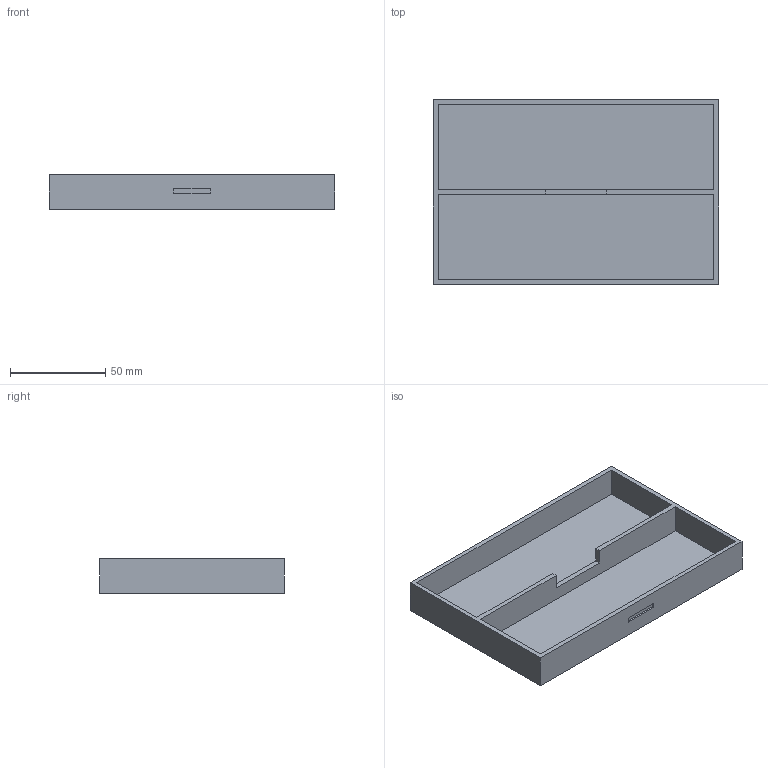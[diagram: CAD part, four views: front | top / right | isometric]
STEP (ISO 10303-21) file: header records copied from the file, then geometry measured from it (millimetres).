
FILE_DESCRIPTION(('Open CASCADE Model'),'2;1');
FILE_NAME('Open CASCADE Shape Model','2026-11-03T10:20:07',('Author'),( 'Open CASCADE'),'Open CASCADE STEP processor 8.0','build123d', 'Unknown');
FILE_SCHEMA(('AUTOMOTIVE_DESIGN { 1 0 10303 214 1 1 1 1 }'));
Length unit declared in the file: millimetre
Products named in the file (1): COMPOUND
Bounding box: 150 x 97 x 18 mm (x, y, z)
Volume: 60005 mm3; surface area: 49375.2 mm2
Topology: 1 solids, 1 shells, 29 faces, 72 edges, 48 vertices
Faces by surface type: plane 29
Entity records: 1756 total; most frequent: CARTESIAN_POINT 330, DIRECTION 240, LINE 180, VECTOR 180, ORIENTED_EDGE 144, PCURVE 144, DEFINITIONAL_REPRESENTATION 144, EDGE_CURVE 72
